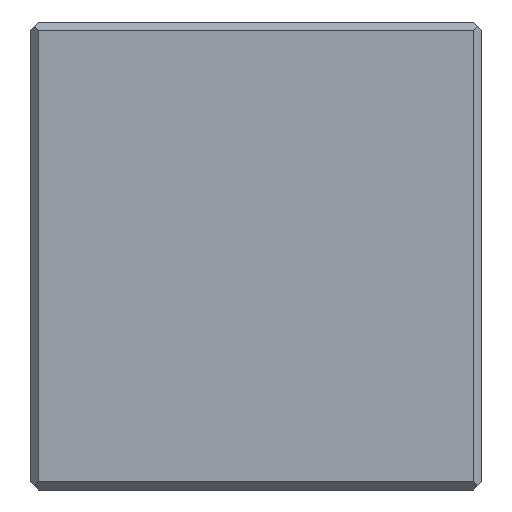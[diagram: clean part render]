
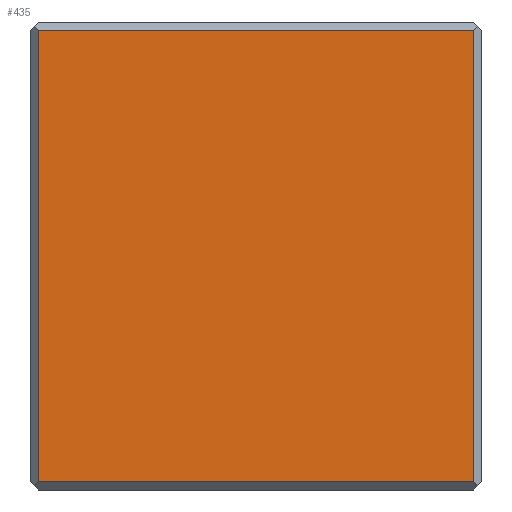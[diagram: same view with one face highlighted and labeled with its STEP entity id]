
A CAD part, left-side view. The second image highlights one B-rep face of the part: STEP entity #435.
In plain terms, the highlighted planar face has unit normal (-1, 0, 0).
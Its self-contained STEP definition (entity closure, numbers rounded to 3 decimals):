
#108=ORIENTED_EDGE('',*,*,#152,.T.);
#109=ORIENTED_EDGE('',*,*,#183,.F.);
#110=ORIENTED_EDGE('',*,*,#195,.F.);
#111=ORIENTED_EDGE('',*,*,#164,.T.);
#152=EDGE_CURVE('',#204,#207,#248,.T.);
#164=EDGE_CURVE('',#217,#204,#260,.T.);
#183=EDGE_CURVE('',#231,#207,#275,.T.);
#195=EDGE_CURVE('',#217,#231,#283,.T.);
#204=VERTEX_POINT('',#609);
#207=VERTEX_POINT('',#615);
#217=VERTEX_POINT('',#641);
#231=VERTEX_POINT('',#676);
#248=LINE('',#616,#296);
#260=LINE('',#640,#308);
#275=LINE('',#677,#323);
#283=LINE('',#700,#331);
#296=VECTOR('',#501,1000.);
#308=VECTOR('',#519,1000.);
#323=VECTOR('',#548,1000.);
#331=VECTOR('',#570,1000.);
#357=EDGE_LOOP('',(#108,#109,#110,#111));
#391=FACE_BOUND('',#357,.T.);
#417=PLANE('',#478);
#435=ADVANCED_FACE('',(#391),#417,.F.);
#478=AXIS2_PLACEMENT_3D('',#707,#579,#580);
#501=DIRECTION('',(0.,-1.,0.));
#519=DIRECTION('',(0.,0.,-1.));
#548=DIRECTION('',(0.,0.,-1.));
#570=DIRECTION('',(0.,-1.,0.));
#579=DIRECTION('',(1.,0.,0.));
#580=DIRECTION('',(0.,0.,-1.));
#609=CARTESIAN_POINT('',(-123.,55.,-28.));
#615=CARTESIAN_POINT('',(-123.,1.,-28.));
#616=CARTESIAN_POINT('',(-123.,56.,-28.));
#640=CARTESIAN_POINT('',(-123.,55.,29.));
#641=CARTESIAN_POINT('',(-123.,55.,28.));
#676=CARTESIAN_POINT('',(-123.,1.,28.));
#677=CARTESIAN_POINT('',(-123.,1.,29.));
#700=CARTESIAN_POINT('',(-123.,56.,28.));
#707=CARTESIAN_POINT('',(-123.,55.,29.));
